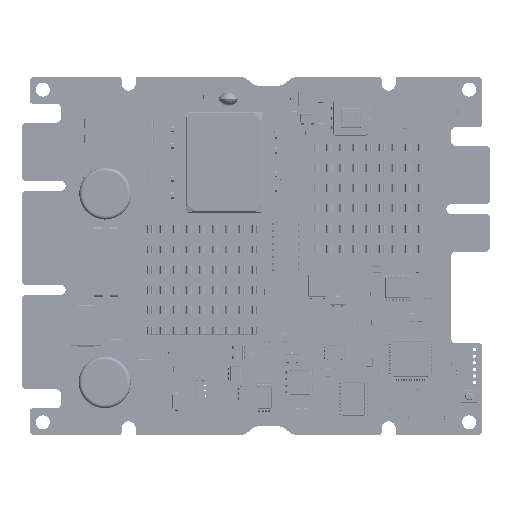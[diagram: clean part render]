
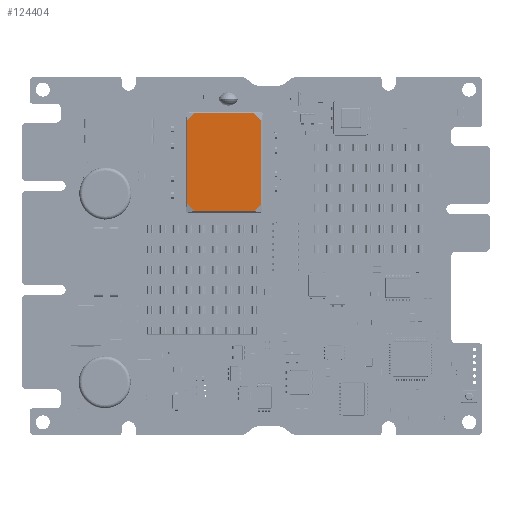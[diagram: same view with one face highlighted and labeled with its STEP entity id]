
A CAD part, top view. The second image highlights one B-rep face of the part: STEP entity #124404.
In plain terms, the highlighted planar face has unit normal (0, 0, 1).
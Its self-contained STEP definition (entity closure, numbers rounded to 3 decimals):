
#123889 = VERTEX_POINT('',#123890);
#123890 = CARTESIAN_POINT('',(5.751,-9.396,10.2));
#123908 = VERTEX_POINT('',#123909);
#123909 = CARTESIAN_POINT('',(7.151,-7.996,10.2));
#123915 = EDGE_CURVE('',#123889,#123908,#123916,.T.);
#123916 = LINE('',#123917,#123918);
#123917 = CARTESIAN_POINT('',(8.691,-6.456,10.2));
#123918 = VECTOR('',#123919,1.);
#123919 = DIRECTION('',(0.707,0.707,0.));
#123930 = VERTEX_POINT('',#123931);
#123931 = CARTESIAN_POINT('',(-5.749,9.384,10.2));
#123949 = VERTEX_POINT('',#123950);
#123950 = CARTESIAN_POINT('',(-7.149,7.984,10.2));
#123956 = EDGE_CURVE('',#123930,#123949,#123957,.T.);
#123957 = LINE('',#123958,#123959);
#123958 = CARTESIAN_POINT('',(-6.449,8.684,10.2));
#123959 = VECTOR('',#123960,1.);
#123960 = DIRECTION('',(-0.707,-0.707,0.));
#123988 = EDGE_CURVE('',#123989,#123930,#123991,.T.);
#123989 = VERTEX_POINT('',#123990);
#123990 = CARTESIAN_POINT('',(5.751,9.384,10.2));
#123991 = LINE('',#123992,#123993);
#123992 = CARTESIAN_POINT('',(-7.449,9.384,10.2));
#123993 = VECTOR('',#123994,1.);
#123994 = DIRECTION('',(-1.,0.,0.));
#124171 = VERTEX_POINT('',#124172);
#124172 = CARTESIAN_POINT('',(7.151,7.984,10.2));
#124178 = EDGE_CURVE('',#123908,#124171,#124179,.T.);
#124179 = LINE('',#124180,#124181);
#124180 = CARTESIAN_POINT('',(7.151,9.684,10.2));
#124181 = VECTOR('',#124182,1.);
#124182 = DIRECTION('',(0.,1.,0.));
#124195 = VERTEX_POINT('',#124196);
#124196 = CARTESIAN_POINT('',(-5.749,-9.396,10.2));
#124219 = EDGE_CURVE('',#124195,#123889,#124220,.T.);
#124220 = LINE('',#124221,#124222);
#124221 = CARTESIAN_POINT('',(-7.449,-9.396,10.2));
#124222 = VECTOR('',#124223,1.);
#124223 = DIRECTION('',(1.,0.,0.));
#124251 = VERTEX_POINT('',#124252);
#124252 = CARTESIAN_POINT('',(-7.149,-7.996,10.2));
#124258 = EDGE_CURVE('',#123949,#124251,#124259,.T.);
#124259 = LINE('',#124260,#124261);
#124260 = CARTESIAN_POINT('',(-7.149,9.684,10.2));
#124261 = VECTOR('',#124262,1.);
#124262 = DIRECTION('',(0.,-1.,0.));
#124283 = EDGE_CURVE('',#124251,#124195,#124284,.T.);
#124284 = LINE('',#124285,#124286);
#124285 = CARTESIAN_POINT('',(-16.139,0.994,10.2));
#124286 = VECTOR('',#124287,1.);
#124287 = DIRECTION('',(0.707,-0.707,0.));
#124375 = EDGE_CURVE('',#124171,#123989,#124376,.T.);
#124376 = LINE('',#124377,#124378);
#124377 = CARTESIAN_POINT('',(-0.999,16.134,10.2));
#124378 = VECTOR('',#124379,1.);
#124379 = DIRECTION('',(-0.707,0.707,-0.));
#124404 = ADVANCED_FACE('',(#124405),#124415,.T.);
#124405 = FACE_BOUND('',#124406,.T.);
#124406 = EDGE_LOOP('',(#124407,#124408,#124409,#124410,#124411,#124412,
    #124413,#124414));
#124407 = ORIENTED_EDGE('',*,*,#124375,.T.);
#124408 = ORIENTED_EDGE('',*,*,#123988,.T.);
#124409 = ORIENTED_EDGE('',*,*,#123956,.T.);
#124410 = ORIENTED_EDGE('',*,*,#124258,.T.);
#124411 = ORIENTED_EDGE('',*,*,#124283,.T.);
#124412 = ORIENTED_EDGE('',*,*,#124219,.T.);
#124413 = ORIENTED_EDGE('',*,*,#123915,.T.);
#124414 = ORIENTED_EDGE('',*,*,#124178,.T.);
#124415 = PLANE('',#124416);
#124416 = AXIS2_PLACEMENT_3D('',#124417,#124418,#124419);
#124417 = CARTESIAN_POINT('',(-7.449,9.684,10.2));
#124418 = DIRECTION('',(-0.,0.,1.));
#124419 = DIRECTION('',(1.,0.,0.));
